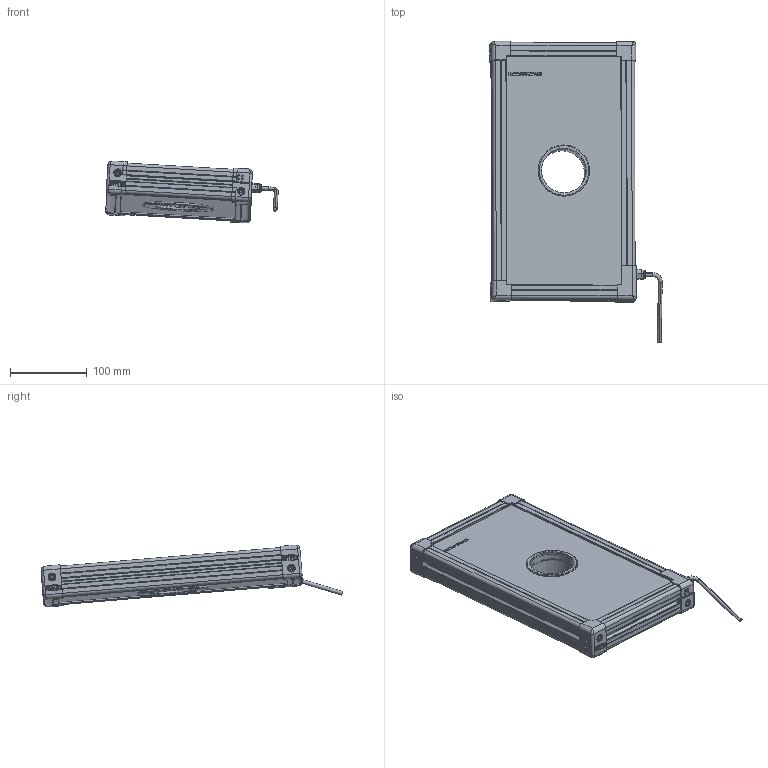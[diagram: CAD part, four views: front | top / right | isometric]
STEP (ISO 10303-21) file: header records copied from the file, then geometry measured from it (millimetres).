
FILE_DESCRIPTION (( 'STEP AP214' ), '1' );
FILE_NAME ('EFFI-BL-150-300-ZZZ-1M12.STEP', '2021-06-18T14:40:21', ( '' ), ( '' ), 'SwSTEP 2.0', 'SolidWorks 2021', '' );
FILE_SCHEMA (( 'AUTOMOTIVE_DESIGN' ));
Length unit declared in the file: millimetre
Products named in the file (13): Pièce13^EFFI-BL-XXX-YYY-ZZZ (1connecteur) Ø58.5; cordon_Avec cable; 000629; petite joue + vis; EFFI-BL-150-300-ZZZ-1M12; grande joue; Assemblage Ø58.5; 001038; petite joue; profile X_PERCE; 000590; 001037; profile Y_PERCE
Assembly tree (21 placements, depth 3):
  EFFI-BL-150-300-ZZZ-1M12
    profile X_PERCE  x2
    profile Y_PERCE  x2
    Pièce13^EFFI-BL-XXX-YYY-ZZZ (1connecteur) Ø58.5
    petite joue + vis  x3
      petite joue
      000629
    000629  x2
    grande joue
    Assemblage Ø58.5
      001037
      001038
      000590  x3
    cordon_Avec cable
Bounding box: 225.25 x 393.78 x 80.94 mm (x, y, z)
Volume: 2128304.4 mm3; surface area: 325520.8 mm2
Topology: 22 solids, 28 shells, 3840 faces, 10209 edges, 6700 vertices
Faces by surface type: plane 2371, cylinder 724, bspline 552, cone 150, torus 35, sphere 8
Entity records: 72881 total; most frequent: CARTESIAN_POINT 28442, ORIENTED_EDGE 9308, DIRECTION 7751, EDGE_CURVE 4658, VECTOR 3485, LINE 3485, VERTEX_POINT 3071, AXIS2_PLACEMENT_3D 2133
